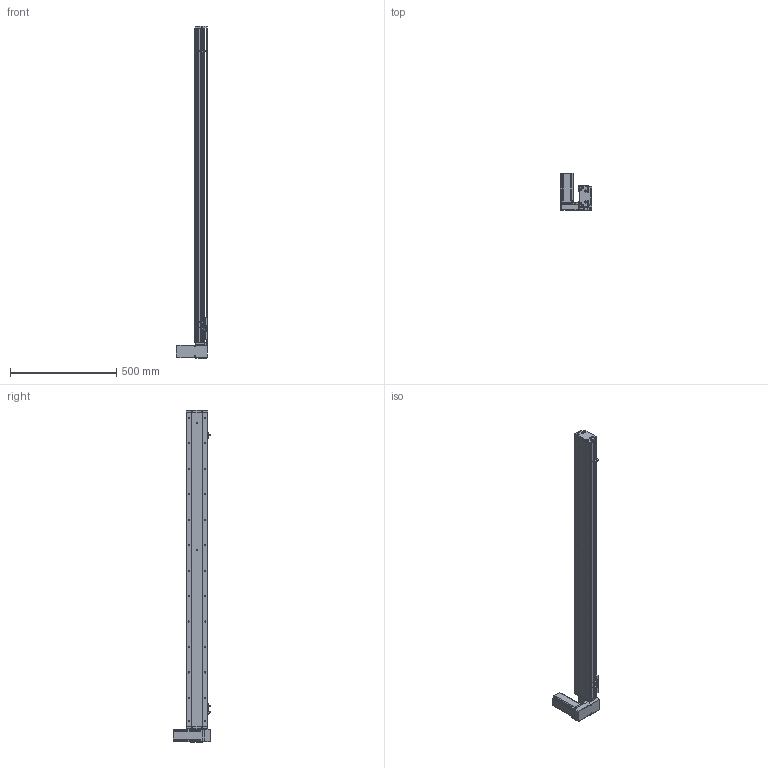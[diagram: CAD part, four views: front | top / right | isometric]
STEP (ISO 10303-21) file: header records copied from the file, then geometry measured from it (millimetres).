
FILE_DESCRIPTION (( 'STEP AP214' ), '1' );
FILE_NAME ('KSD100B-S1300-MRD-CM.STEP', '2019-10-16T08:09:04', ( '微软用户' ), ( '微软中国' ), 'SwSTEP 2.0', 'SolidWorks 2014', '' );
FILE_SCHEMA (( 'AUTOMOTIVE_DESIGN' ));
Length unit declared in the file: millimetre
Products named in the file (12): 覜茼え100遵圉猾敕; 100宽防尘板1300行程-同步带; 100宽马达安装板同步带右; 100宽同步带安装板半封闭; 100宽马达安装板同步带; 100遵傷啣肮祭湍; 100宽底板半封闭同步带1300行程; KSD100B-S1300-MRD-CM; 悵誘欶奻狟殏; 100宽马达安装板连板上下折丝杆同步带; 台达ECMA－C20604AS伺服电机; U倰嫖萇EEㄜSX672
Assembly tree (13 placements, depth 2):
  KSD100B-S1300-MRD-CM
    100宽底板半封闭同步带1300行程
    100遵傷啣肮祭湍
    100宽马达安装板同步带
    100宽同步带安装板半封闭
    100宽马达安装板同步带右
    100宽防尘板1300行程-同步带
    覜茼え100遵圉猾敕
    U倰嫖萇EEㄜSX672  x3
    台达ECMA－C20604AS伺服电机
    100宽马达安装板连板上下折丝杆同步带
    悵誘欶奻狟殏
Bounding box: 148 x 174.7 x 1565 mm (x, y, z)
Volume: 3404885.6 mm3; surface area: 1147940 mm2
Topology: 14 solids, 14 shells, 1563 faces, 4418 edges, 2797 vertices
Faces by surface type: cylinder 801, plane 603, cone 159
Entity records: 56527 total; most frequent: CARTESIAN_POINT 11672, DIRECTION 7686, ORIENTED_EDGE 7424, EDGE_CURVE 3712, AXIS2_PLACEMENT_3D 2821, VERTEX_POINT 2421, LINE 2044, VECTOR 2044
